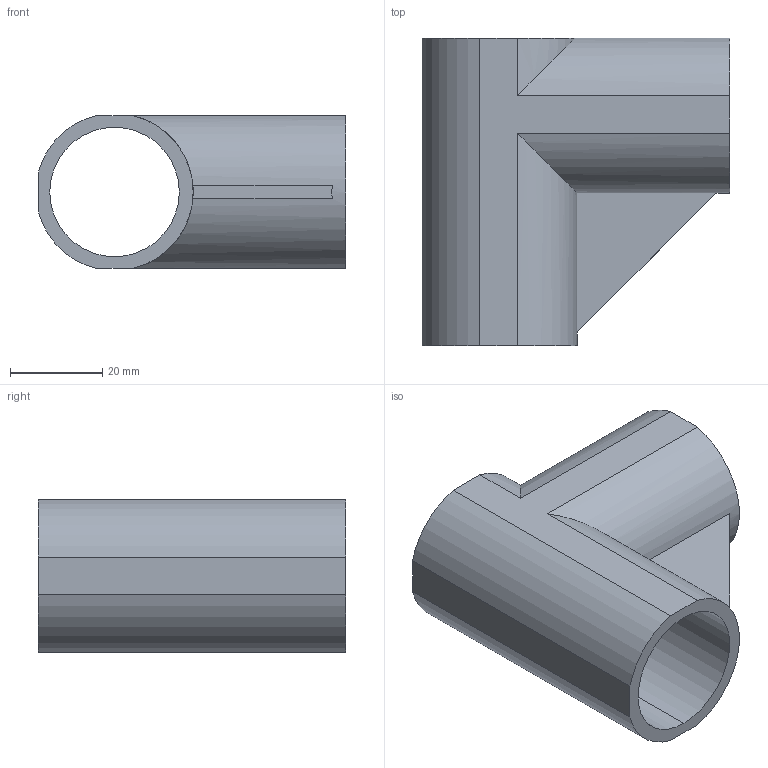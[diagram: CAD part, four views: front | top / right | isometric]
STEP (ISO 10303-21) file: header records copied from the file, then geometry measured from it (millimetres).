
FILE_DESCRIPTION (( 'STEP AP214' ), '1' );
FILE_NAME ('PJ-104.STEP', '2023-09-12T11:00:07', ( 'catia' ), ( 'HP Inc.' ), 'SwSTEP 2.0', 'SolidWorks 2021', '' );
FILE_SCHEMA (( 'AUTOMOTIVE_DESIGN' ));
Length unit declared in the file: millimetre
Products named in the file (1): PJ-104
Bounding box: 66.5 x 66.5 x 33 mm (x, y, z)
Volume: 33711.9 mm3; surface area: 20919.7 mm2
Topology: 1 solids, 1 shells, 22 faces, 57 edges, 38 vertices
Faces by surface type: cylinder 12, plane 10
Entity records: 717 total; most frequent: CARTESIAN_POINT 136, DIRECTION 115, ORIENTED_EDGE 114, EDGE_CURVE 57, AXIS2_PLACEMENT_3D 41, VERTEX_POINT 38, VECTOR 33, LINE 33
